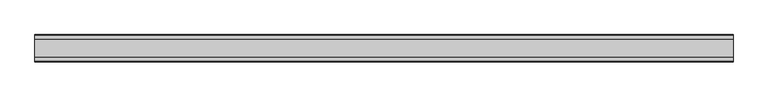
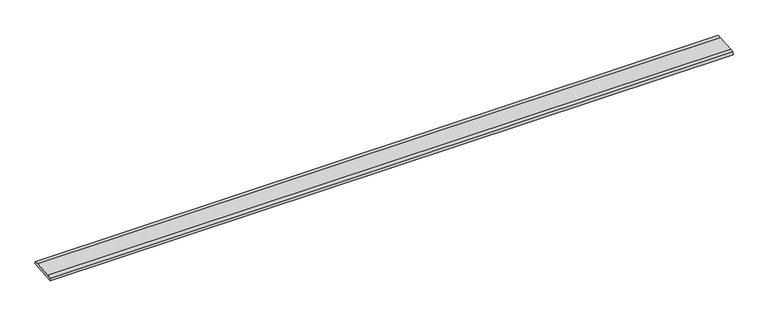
"""IFC4 building model written with IfcOpenShell, lengths in millimetres: proxy geometry, Muestra 6.32m 245 CM : Muestra 6.32m 245 CM."""

from ifc_helpers import new_model, si_unit, point, frame, frame_2d, origin, place, context, project, spatial, polyline, circle_curve, trimmed, segment, composite_curve, outline, extrude, source, transform, mapped, element, save


def generic_models_9f248290(model_context):
    return source(origin(), model_context, "Body", "SweptSolid", [
        extrude(outline(composite_curve([segment(trimmed(circle_curve(frame_2d((4081.4249103, -690.4671462)), 721.556477), [point((3944.070475, 17.8954084))], [point((3979.5907681, 23.8671992))], False, "CARTESIAN"), True, "CONTINUOUS"), segment(polyline([(3979.5907681, 23.8671992), (4142.9572985, 37.164475)]), True, "CONTINUOUS"), segment(trimmed(circle_curve(frame_2d((4157.9852513, -684.2354905)), 721.556477), [point((4142.9572985, 37.164475))], [point((4178.525513, 37.0285715))], False, "CARTESIAN"), True, "CONTINUOUS"), segment(polyline([(4178.525513, 37.0285715), (4187.1660278, 15.6386957), (3939.0251003, -4.5588217), (3944.070475, 17.8954084)]), True, "CONTINUOUS")], self_intersect=False)), frame((80940.4394433, 0.0, 0.0), z_axis=(1.0, 0.0, 0.0), x_axis=(0.0, 1.0, 0.0)), (0.0, 0.0, 1.0), 6320.0),
    ])


if __name__ == "__main__":
    model = new_model("IFC4")
    model_context = context("Model", 3, world=origin())
    ifc_project = project(units=[si_unit("LENGTHUNIT", "METRE", prefix="MILLI")], contexts=[model_context])
    site = spatial("IfcSite", under=ifc_project)
    building = spatial("IfcBuilding", under=site)
    placement = place(None, origin())
    generic_models_shape = generic_models_9f248290(model_context)
    element("IfcBuildingElementProxy", 1, Name="Muestra 6.32m 245 CM : Muestra 6.32m 245 CM", ObjectType="Muestra 6.32m 245 CM : Muestra 6.32m 245 CM", at=placement, inside=building, context=model_context, shape_type="MappedRepresentation", body=[
        mapped(generic_models_shape, transform((0.0, 0.0, 0.0), x_axis=(1.0, 0.0, 0.0), y_axis=(0.0, 1.0, 0.0), z_axis=(0.0, 0.0, 1.0))),
    ])
    save(model, "model.ifc")
